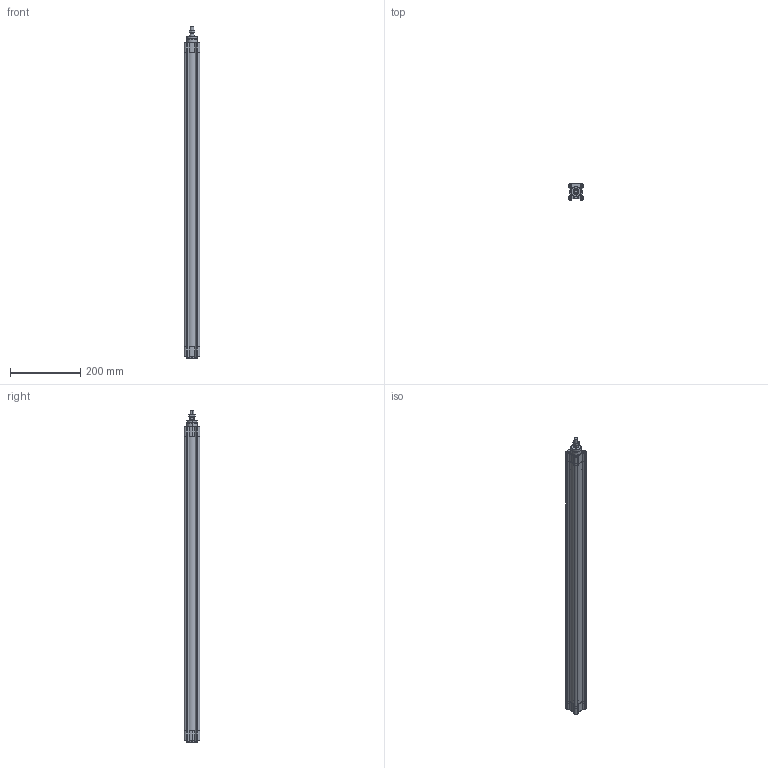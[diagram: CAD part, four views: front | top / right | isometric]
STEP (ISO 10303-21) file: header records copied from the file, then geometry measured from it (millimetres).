
FILE_DESCRIPTION (( 'STEP AP203' ), '1' );
FILE_NAME ('CPME32-800.STEP', '2025-01-16T13:13:53', ( '' ), ( '' ), 'SwSTEP 2.0', 'SolidWorks 2019', '' );
FILE_SCHEMA (( 'CONFIG_CONTROL_DESIGN' ));
Length unit declared in the file: millimetre
Products named in the file (1): CPME32-800
Bounding box: 45 x 45 x 945.1 mm (x, y, z)
Volume: 781788.3 mm3; surface area: 331246.9 mm2
Topology: 3 solids, 3 shells, 633 faces, 1637 edges, 1038 vertices
Faces by surface type: plane 327, cylinder 192, cone 106, torus 8
Entity records: 19692 total; most frequent: CARTESIAN_POINT 4284, ORIENTED_EDGE 3242, DIRECTION 3141, EDGE_CURVE 1621, AXIS2_PLACEMENT_3D 1109, VERTEX_POINT 1038, VECTOR 923, LINE 923
